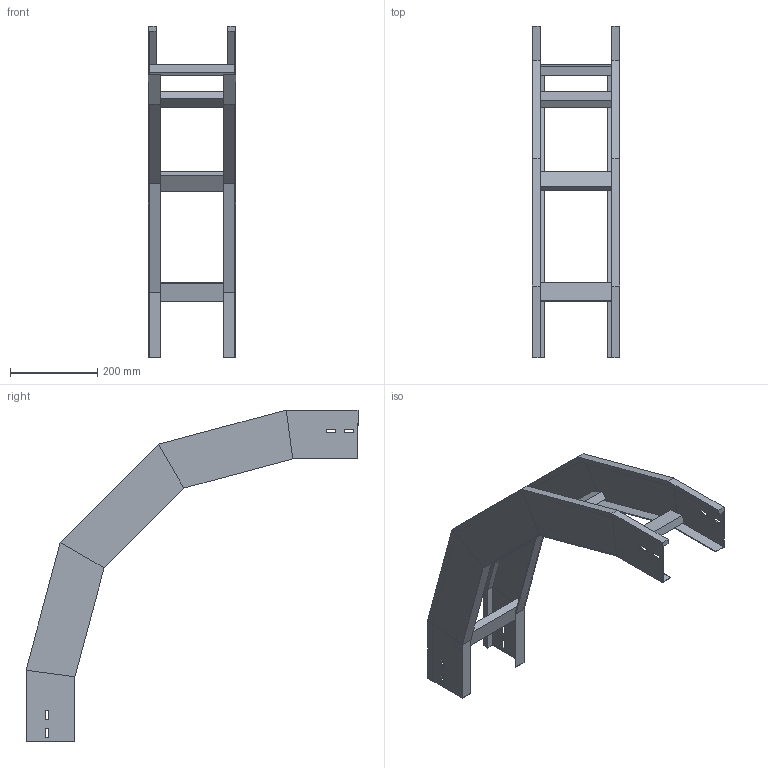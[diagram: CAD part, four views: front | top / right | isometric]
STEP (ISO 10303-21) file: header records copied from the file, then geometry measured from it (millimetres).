
FILE_DESCRIPTION (( 'STEP AP214' ), '1' );
FILE_NAME ('33B5J200.step', '2025-02-21T15:02:55', ( '' ), ( '' ), 'SwSTEP 2.0', 'SolidWorks 2023', '' );
FILE_SCHEMA (( 'AUTOMOTIVE_DESIGN' ));
Length unit declared in the file: millimetre
Products named in the file (3): 33B5J200; TRAVERSINO_200; LONGH.DISCESA_90°_H112.5_R500
Assembly tree (6 placements, depth 2):
  33B5J200
    LONGH.DISCESA_90°_H112.5_R500  x2
    TRAVERSINO_200  x4
Bounding box: 200 x 762.85 x 762.85 mm (x, y, z)
Volume: 1744482 mm3; surface area: 823803.5 mm2
Topology: 6 solids, 6 shells, 140 faces, 320 edges, 192 vertices
Faces by surface type: plane 140
Entity records: 1872 total; most frequent: CARTESIAN_POINT 309, ORIENTED_EDGE 296, DIRECTION 294, LINE 148, VECTOR 148, EDGE_CURVE 148, VERTEX_POINT 88, AXIS2_PLACEMENT_3D 73
